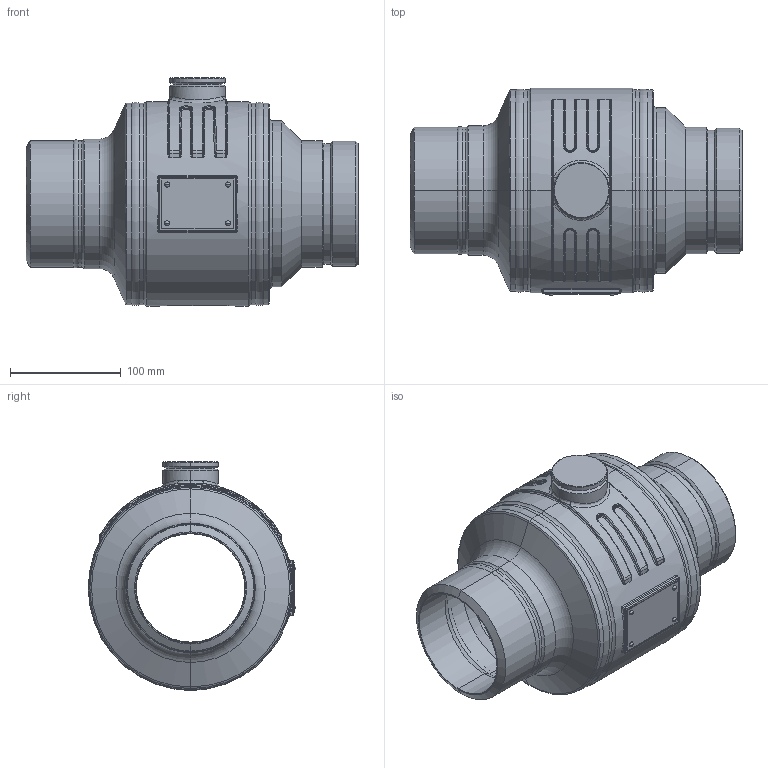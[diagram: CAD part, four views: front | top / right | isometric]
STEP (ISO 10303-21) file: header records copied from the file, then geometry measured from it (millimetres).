
FILE_DESCRIPTION((''),'2;1');
FILE_NAME('KHMO-AB-V-ISKT-100P040','2025-02-11T14:31:13',('jeitlers'),('KLINGER'),'CREO PARAMETRIC BY PTC INC, 2023014','CREO PARAMETRIC BY PTC INC, 2023014','');
FILE_SCHEMA(('CONFIG_CONTROL_DESIGN'));
Length unit declared in the file: millimetre
Products named in the file (1): KHMO-AB-V-ISKT-100P040
Bounding box: 300 x 187.6 x 206.5 mm (x, y, z)
Volume: 1916135.4 mm3; surface area: 529675.3 mm2
Topology: 2 solids, 2 shells, 438 faces, 1025 edges, 594 vertices
Faces by surface type: cylinder 142, torus 98, plane 70, cone 68, bspline 44, sphere 16
Entity records: 23178 total; most frequent: CARTESIAN_POINT 13292, DIRECTION 2193, ORIENTED_EDGE 2018, EDGE_CURVE 1009, AXIS2_PLACEMENT_3D 946, VERTEX_POINT 594, CIRCLE 552, EDGE_LOOP 467
